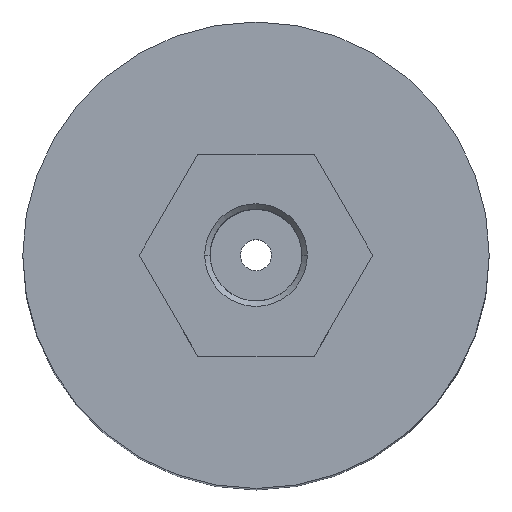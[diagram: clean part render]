
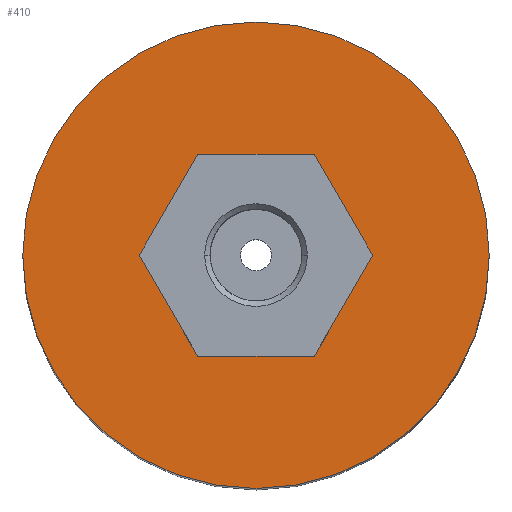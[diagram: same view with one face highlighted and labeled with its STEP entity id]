
A CAD part, top view. The second image highlights one B-rep face of the part: STEP entity #410.
In plain terms, the highlighted planar face has unit normal (0, 0, 1).
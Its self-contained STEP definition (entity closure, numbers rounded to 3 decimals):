
#54 = CARTESIAN_POINT ( 'NONE',  ( 0., 0., 100. ) ) ;
#206 = AXIS2_PLACEMENT_3D ( 'NONE', #54, #1169, #3702 ) ;
#237 = DIRECTION ( 'NONE',  ( 1., 0., 0. ) ) ;
#273 = EDGE_LOOP ( 'NONE', ( #4462, #3268 ) ) ;
#401 = EDGE_CURVE ( 'NONE', #4385, #4691, #4254, .T. ) ;
#410 = ADVANCED_FACE ( 'NONE', ( #1414, #1839 ), #1465, .T. ) ;
#589 = EDGE_LOOP ( 'NONE', ( #596, #3097 ) ) ;
#596 = ORIENTED_EDGE ( 'NONE', *, *, #2452, .T. ) ;
#675 = CARTESIAN_POINT ( 'NONE',  ( 0., 0., 100. ) ) ;
#720 = EDGE_CURVE ( 'NONE', #4096, #3179, #1598, .T. ) ;
#882 = DIRECTION ( 'NONE',  ( 0., 0., 1. ) ) ;
#1169 = DIRECTION ( 'NONE',  ( 0., 0., 1. ) ) ;
#1191 = AXIS2_PLACEMENT_3D ( 'NONE', #3566, #2055, #237 ) ;
#1225 = DIRECTION ( 'NONE',  ( 1., 0., 0. ) ) ;
#1414 = FACE_BOUND ( 'NONE', #273, .T. ) ;
#1465 = PLANE ( 'NONE',  #2875 ) ;
#1490 = DIRECTION ( 'NONE',  ( 0., 0., 1. ) ) ;
#1598 = CIRCLE ( 'NONE', #1191, 5.9 ) ;
#1839 = FACE_OUTER_BOUND ( 'NONE', #589, .T. ) ;
#2055 = DIRECTION ( 'NONE',  ( 0., 0., 1. ) ) ;
#2166 = AXIS2_PLACEMENT_3D ( 'NONE', #675, #1490, #2231 ) ;
#2231 = DIRECTION ( 'NONE',  ( 1., 0., 0. ) ) ;
#2314 = CARTESIAN_POINT ( 'NONE',  ( -30., 0., 100. ) ) ;
#2401 = CIRCLE ( 'NONE', #4249, 30. ) ;
#2452 = EDGE_CURVE ( 'NONE', #4691, #4385, #2401, .T. ) ;
#2875 = AXIS2_PLACEMENT_3D ( 'NONE', #4050, #3335, #3358 ) ;
#2918 = CARTESIAN_POINT ( 'NONE',  ( 30., 0., 100. ) ) ;
#2996 = CARTESIAN_POINT ( 'NONE',  ( -5.9, 0., 100. ) ) ;
#3097 = ORIENTED_EDGE ( 'NONE', *, *, #401, .T. ) ;
#3102 = CARTESIAN_POINT ( 'NONE',  ( 0., 0., 100. ) ) ;
#3179 = VERTEX_POINT ( 'NONE', #4131 ) ;
#3268 = ORIENTED_EDGE ( 'NONE', *, *, #720, .F. ) ;
#3335 = DIRECTION ( 'NONE',  ( 0., 0., 1. ) ) ;
#3358 = DIRECTION ( 'NONE',  ( 1., 0., 0. ) ) ;
#3566 = CARTESIAN_POINT ( 'NONE',  ( 0., 0., 100. ) ) ;
#3702 = DIRECTION ( 'NONE',  ( 1., 0., 0. ) ) ;
#4022 = CIRCLE ( 'NONE', #206, 5.9 ) ;
#4050 = CARTESIAN_POINT ( 'NONE',  ( 0., 0., 100. ) ) ;
#4096 = VERTEX_POINT ( 'NONE', #2996 ) ;
#4131 = CARTESIAN_POINT ( 'NONE',  ( 5.9, 0., 100. ) ) ;
#4249 = AXIS2_PLACEMENT_3D ( 'NONE', #3102, #882, #1225 ) ;
#4254 = CIRCLE ( 'NONE', #2166, 30. ) ;
#4385 = VERTEX_POINT ( 'NONE', #2918 ) ;
#4462 = ORIENTED_EDGE ( 'NONE', *, *, #4565, .F. ) ;
#4565 = EDGE_CURVE ( 'NONE', #3179, #4096, #4022, .T. ) ;
#4691 = VERTEX_POINT ( 'NONE', #2314 ) ;
